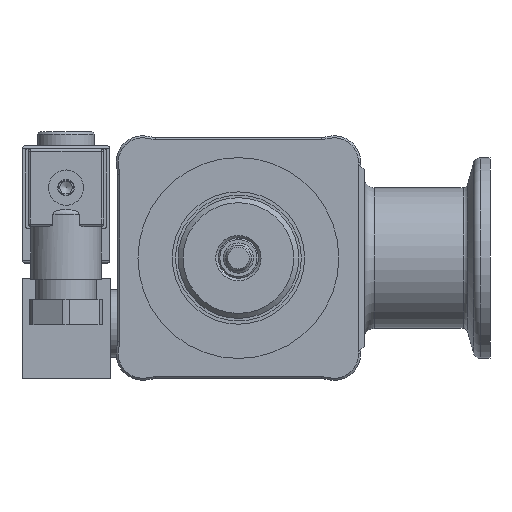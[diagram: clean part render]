
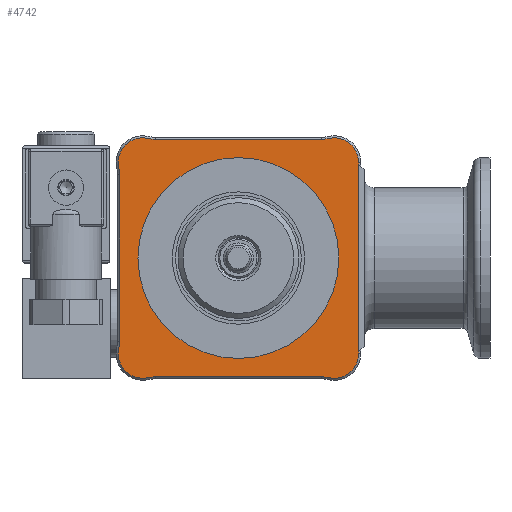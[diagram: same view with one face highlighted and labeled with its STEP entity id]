
A CAD part, front view. The second image highlights one B-rep face of the part: STEP entity #4742.
In plain terms, the highlighted planar face has unit normal (0, -1, 0).
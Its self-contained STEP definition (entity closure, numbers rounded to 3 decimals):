
#2649=PLANE('',#12637);
#3151=LINE('',#17493,#3989);
#3152=LINE('',#17496,#3990);
#3153=LINE('',#17498,#3991);
#3154=LINE('',#17504,#3992);
#3155=LINE('',#17512,#3993);
#3156=LINE('',#17520,#3994);
#3989=VECTOR('',#14256,1.);
#3990=VECTOR('',#14257,1.);
#3991=VECTOR('',#14258,1.);
#3992=VECTOR('',#14263,1.);
#3993=VECTOR('',#14270,1.);
#3994=VECTOR('',#14277,1.);
#4742=ADVANCED_FACE('',(#5499,#5500),#2649,.F.);
#5499=FACE_BOUND('',#6127,.T.);
#5500=FACE_BOUND('',#6128,.T.);
#6127=EDGE_LOOP('',(#7549,#7550,#7551,#7552,#7553,#7554,#7555,#7556,#7557,
#7558,#7559,#7560,#7561,#7562,#7563,#7564));
#6128=EDGE_LOOP('',(#7565));
#7549=ORIENTED_EDGE('',*,*,#10909,.T.);
#7550=ORIENTED_EDGE('',*,*,#10910,.T.);
#7551=ORIENTED_EDGE('',*,*,#10911,.T.);
#7552=ORIENTED_EDGE('',*,*,#10912,.T.);
#7553=ORIENTED_EDGE('',*,*,#10913,.T.);
#7554=ORIENTED_EDGE('',*,*,#10914,.T.);
#7555=ORIENTED_EDGE('',*,*,#10915,.T.);
#7556=ORIENTED_EDGE('',*,*,#10916,.T.);
#7557=ORIENTED_EDGE('',*,*,#10917,.T.);
#7558=ORIENTED_EDGE('',*,*,#10918,.T.);
#7559=ORIENTED_EDGE('',*,*,#10919,.T.);
#7560=ORIENTED_EDGE('',*,*,#10920,.T.);
#7561=ORIENTED_EDGE('',*,*,#10921,.T.);
#7562=ORIENTED_EDGE('',*,*,#10922,.T.);
#7563=ORIENTED_EDGE('',*,*,#10923,.T.);
#7564=ORIENTED_EDGE('',*,*,#10924,.T.);
#7565=ORIENTED_EDGE('',*,*,#10925,.T.);
#9817=VERTEX_POINT('',#17494);
#9818=VERTEX_POINT('',#17495);
#9819=VERTEX_POINT('',#17497);
#9820=VERTEX_POINT('',#17499);
#9821=VERTEX_POINT('',#17501);
#9822=VERTEX_POINT('',#17503);
#9823=VERTEX_POINT('',#17505);
#9824=VERTEX_POINT('',#17507);
#9825=VERTEX_POINT('',#17509);
#9826=VERTEX_POINT('',#17511);
#9827=VERTEX_POINT('',#17513);
#9828=VERTEX_POINT('',#17515);
#9829=VERTEX_POINT('',#17517);
#9830=VERTEX_POINT('',#17519);
#9831=VERTEX_POINT('',#17521);
#9832=VERTEX_POINT('',#17523);
#9833=VERTEX_POINT('',#17526);
#10909=EDGE_CURVE('',#9817,#9818,#3151,.T.);
#10910=EDGE_CURVE('',#9818,#9819,#3152,.T.);
#10911=EDGE_CURVE('',#9819,#9820,#3153,.T.);
#10912=EDGE_CURVE('',#9820,#9821,#11995,.T.);
#10913=EDGE_CURVE('',#9821,#9822,#11996,.T.);
#10914=EDGE_CURVE('',#9822,#9823,#3154,.T.);
#10915=EDGE_CURVE('',#9823,#9824,#11997,.T.);
#10916=EDGE_CURVE('',#9824,#9825,#11998,.T.);
#10917=EDGE_CURVE('',#9825,#9826,#11999,.T.);
#10918=EDGE_CURVE('',#9826,#9827,#3155,.T.);
#10919=EDGE_CURVE('',#9827,#9828,#12000,.T.);
#10920=EDGE_CURVE('',#9828,#9829,#12001,.T.);
#10921=EDGE_CURVE('',#9829,#9830,#12002,.T.);
#10922=EDGE_CURVE('',#9830,#9831,#3156,.T.);
#10923=EDGE_CURVE('',#9831,#9832,#12003,.T.);
#10924=EDGE_CURVE('',#9832,#9817,#12004,.T.);
#10925=EDGE_CURVE('',#9833,#9833,#12005,.T.);
#11995=CIRCLE('',#12626,4.9);
#11996=CIRCLE('',#12627,5.4);
#11997=CIRCLE('',#12628,5.4);
#11998=CIRCLE('',#12629,4.9);
#11999=CIRCLE('',#12630,5.4);
#12000=CIRCLE('',#12631,5.4);
#12001=CIRCLE('',#12632,4.9);
#12002=CIRCLE('',#12633,5.4);
#12003=CIRCLE('',#12634,5.4);
#12004=CIRCLE('',#12635,4.9);
#12005=CIRCLE('',#12636,16.);
#12626=AXIS2_PLACEMENT_3D('',#17500,#14259,#14260);
#12627=AXIS2_PLACEMENT_3D('',#17502,#14261,#14262);
#12628=AXIS2_PLACEMENT_3D('',#17506,#14264,#14265);
#12629=AXIS2_PLACEMENT_3D('',#17508,#14266,#14267);
#12630=AXIS2_PLACEMENT_3D('',#17510,#14268,#14269);
#12631=AXIS2_PLACEMENT_3D('',#17514,#14271,#14272);
#12632=AXIS2_PLACEMENT_3D('',#17516,#14273,#14274);
#12633=AXIS2_PLACEMENT_3D('',#17518,#14275,#14276);
#12634=AXIS2_PLACEMENT_3D('',#17522,#14278,#14279);
#12635=AXIS2_PLACEMENT_3D('',#17524,#14280,#14281);
#12636=AXIS2_PLACEMENT_3D('',#17525,#14282,#14283);
#12637=AXIS2_PLACEMENT_3D('',#17527,#14284,#14285);
#14256=DIRECTION('',(0.,0.,1.));
#14257=DIRECTION('',(0.,0.,1.));
#14258=DIRECTION('',(0.,0.,1.));
#14259=DIRECTION('',(0.,-1.,0.));
#14260=DIRECTION('',(0.,0.,1.));
#14261=DIRECTION('',(0.,1.,0.));
#14262=DIRECTION('',(0.,0.,1.));
#14263=DIRECTION('',(-1.,0.,0.));
#14264=DIRECTION('',(0.,1.,0.));
#14265=DIRECTION('',(0.,0.,1.));
#14266=DIRECTION('',(0.,-1.,0.));
#14267=DIRECTION('',(0.,0.,1.));
#14268=DIRECTION('',(0.,1.,0.));
#14269=DIRECTION('',(0.,0.,1.));
#14270=DIRECTION('',(0.,0.,-1.));
#14271=DIRECTION('',(0.,1.,0.));
#14272=DIRECTION('',(0.,0.,1.));
#14273=DIRECTION('',(0.,-1.,0.));
#14274=DIRECTION('',(0.,0.,1.));
#14275=DIRECTION('',(0.,1.,0.));
#14276=DIRECTION('',(0.,0.,1.));
#14277=DIRECTION('',(1.,0.,0.));
#14278=DIRECTION('',(0.,1.,0.));
#14279=DIRECTION('',(0.,0.,1.));
#14280=DIRECTION('',(0.,-1.,0.));
#14281=DIRECTION('',(0.,0.,1.));
#14282=DIRECTION('',(0.,1.,0.));
#14283=DIRECTION('',(0.,0.,1.));
#14284=DIRECTION('',(0.,1.,0.));
#14285=DIRECTION('',(0.,0.,1.));
#17493=CARTESIAN_POINT('',(23.9,22.,-18.25));
#17494=CARTESIAN_POINT('',(23.9,22.,-19.));
#17495=CARTESIAN_POINT('',(23.9,22.,-18.65));
#17496=CARTESIAN_POINT('',(23.9,22.,17.55));
#17497=CARTESIAN_POINT('',(23.9,22.,18.65));
#17498=CARTESIAN_POINT('',(23.9,22.,19.));
#17499=CARTESIAN_POINT('',(23.9,22.,19.));
#17500=CARTESIAN_POINT('',(19.,22.,19.));
#17501=CARTESIAN_POINT('',(17.826,22.,23.757));
#17502=CARTESIAN_POINT('',(16.532,22.,29.));
#17503=CARTESIAN_POINT('',(16.532,22.,23.6));
#17504=CARTESIAN_POINT('',(-16.532,22.,23.6));
#17505=CARTESIAN_POINT('',(-16.532,22.,23.6));
#17506=CARTESIAN_POINT('',(-16.532,22.,29.));
#17507=CARTESIAN_POINT('',(-17.826,22.,23.757));
#17508=CARTESIAN_POINT('',(-19.,22.,19.));
#17509=CARTESIAN_POINT('',(-23.757,22.,17.826));
#17510=CARTESIAN_POINT('',(-29.,22.,16.532));
#17511=CARTESIAN_POINT('',(-23.6,22.,16.532));
#17512=CARTESIAN_POINT('',(-23.6,22.,-16.532));
#17513=CARTESIAN_POINT('',(-23.6,22.,-16.532));
#17514=CARTESIAN_POINT('',(-29.,22.,-16.532));
#17515=CARTESIAN_POINT('',(-23.757,22.,-17.826));
#17516=CARTESIAN_POINT('',(-19.,22.,-19.));
#17517=CARTESIAN_POINT('',(-17.826,22.,-23.757));
#17518=CARTESIAN_POINT('',(-16.532,22.,-29.));
#17519=CARTESIAN_POINT('',(-16.532,22.,-23.6));
#17520=CARTESIAN_POINT('',(16.532,22.,-23.6));
#17521=CARTESIAN_POINT('',(16.532,22.,-23.6));
#17522=CARTESIAN_POINT('',(16.532,22.,-29.));
#17523=CARTESIAN_POINT('',(17.826,22.,-23.757));
#17524=CARTESIAN_POINT('',(19.,22.,-19.));
#17525=CARTESIAN_POINT('',(0.,22.,0.));
#17526=CARTESIAN_POINT('',(0.,22.,16.));
#17527=CARTESIAN_POINT('',(-25.3,22.,-25.3));
